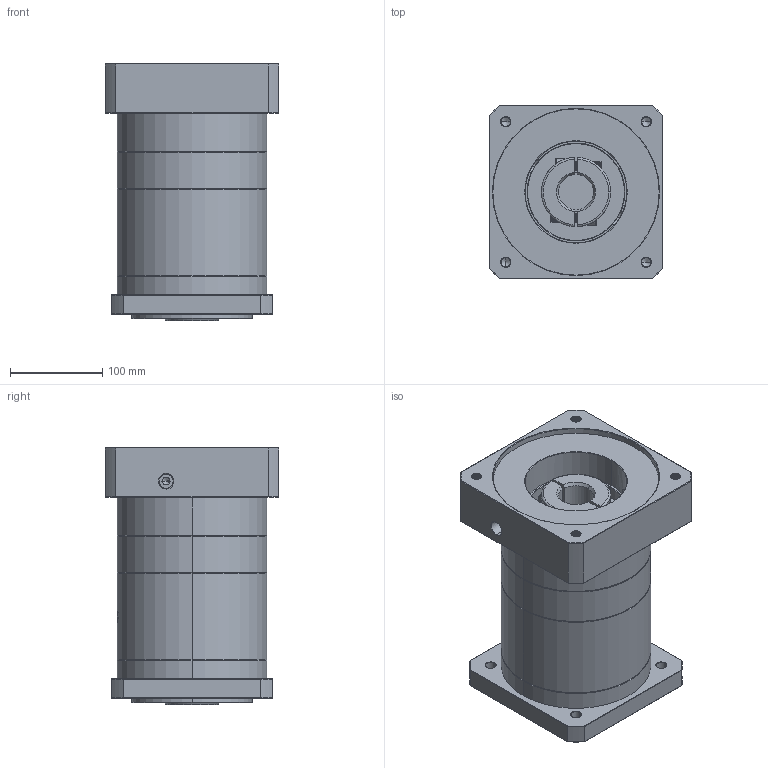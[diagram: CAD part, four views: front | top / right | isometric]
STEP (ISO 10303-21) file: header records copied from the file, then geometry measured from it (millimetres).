
FILE_DESCRIPTION (( 'STEP AP214' ), '1' );
FILE_NAME ('ZF160A-K35-L3-P2-38-180-215-M12.step', '2023-09-03T07:04:44', ( '' ), ( '' ), 'SwSTEP 2.0', 'SolidWorks 2016', '' );
FILE_SCHEMA (( 'AUTOMOTIVE_DESIGN' ));
Length unit declared in the file: millimetre
Products named in the file (1): ZF160A-K35-L3-P2-38-180-215-M12
Bounding box: 188 x 188 x 278.2 mm (x, y, z)
Volume: 5967626.1 mm3; surface area: 390898.9 mm2
Topology: 6 solids, 6 shells, 2132 faces, 5773 edges, 3745 vertices
Faces by surface type: plane 1010, bspline 404, cylinder 376, cone 322, torus 20
Entity records: 119271 total; most frequent: CARTESIAN_POINT 46998, ORIENTED_EDGE 11490, DIRECTION 8431, EDGE_CURVE 5745, VERTEX_POINT 3745, VECTOR 2999, LINE 2999, AXIS2_PLACEMENT_3D 2716
